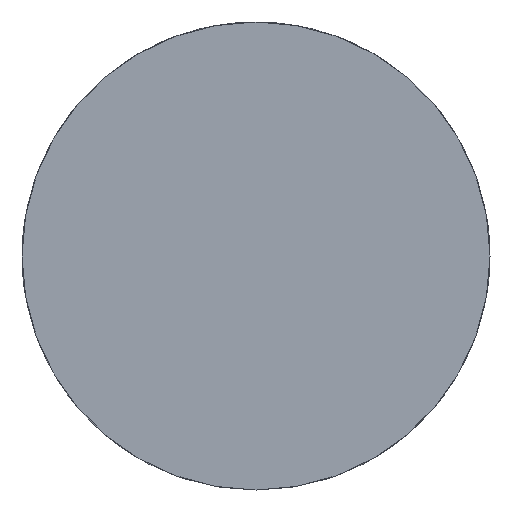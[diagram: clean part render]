
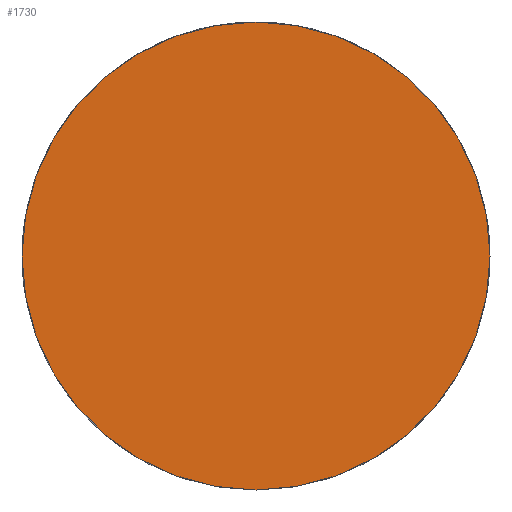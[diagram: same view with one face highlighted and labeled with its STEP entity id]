
A CAD part, front view. The second image highlights one B-rep face of the part: STEP entity #1730.
In plain terms, the highlighted planar face has unit normal (0, -1, 0).
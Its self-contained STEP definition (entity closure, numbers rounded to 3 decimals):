
#536 = DIRECTION ( 'NONE',  ( 0., -1., 0. ) ) ;
#829 = CIRCLE ( 'NONE', #1855, 40. ) ;
#900 = DIRECTION ( 'NONE',  ( 0., 0., -1. ) ) ;
#985 = EDGE_CURVE ( 'NONE', #1214, #1214, #829, .T. ) ;
#1178 = DIRECTION ( 'NONE',  ( 0., 1., 0. ) ) ;
#1214 = VERTEX_POINT ( 'NONE', #1970 ) ;
#1327 = CARTESIAN_POINT ( 'NONE',  ( 0., 0., 0. ) ) ;
#1343 = PLANE ( 'NONE',  #1583 ) ;
#1463 = EDGE_LOOP ( 'NONE', ( #1946 ) ) ;
#1583 = AXIS2_PLACEMENT_3D ( 'NONE', #2116, #1178, #1932 ) ;
#1730 = ADVANCED_FACE ( 'NONE', ( #2079 ), #1343, .F. ) ;
#1855 = AXIS2_PLACEMENT_3D ( 'NONE', #1327, #536, #900 ) ;
#1932 = DIRECTION ( 'NONE',  ( 0., 0., 1. ) ) ;
#1946 = ORIENTED_EDGE ( 'NONE', *, *, #985, .T. ) ;
#1970 = CARTESIAN_POINT ( 'NONE',  ( 0., 0., -40. ) ) ;
#2079 = FACE_OUTER_BOUND ( 'NONE', #1463, .T. ) ;
#2116 = CARTESIAN_POINT ( 'NONE',  ( 0., 0., 0. ) ) ;
